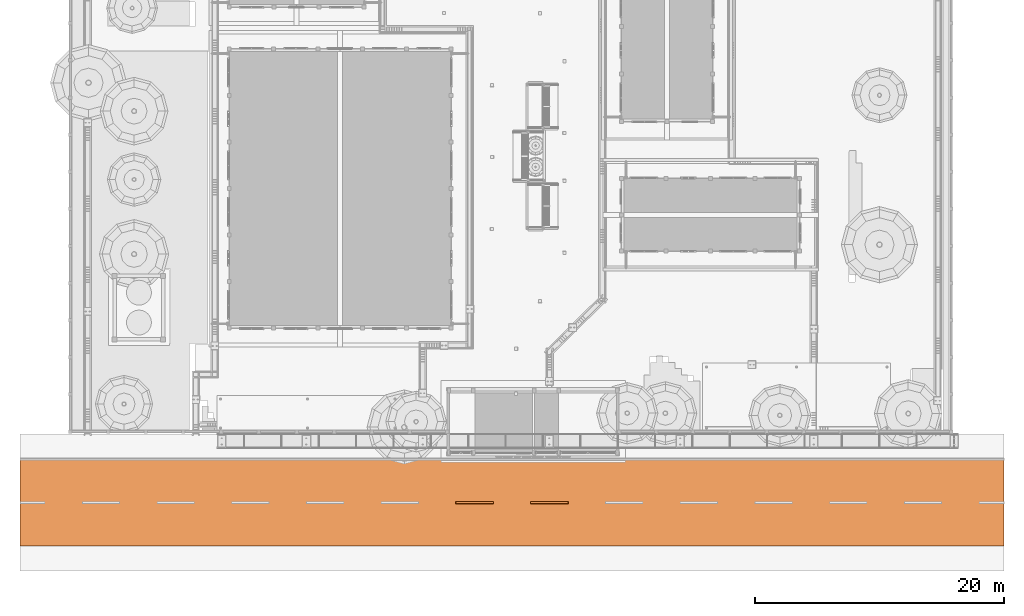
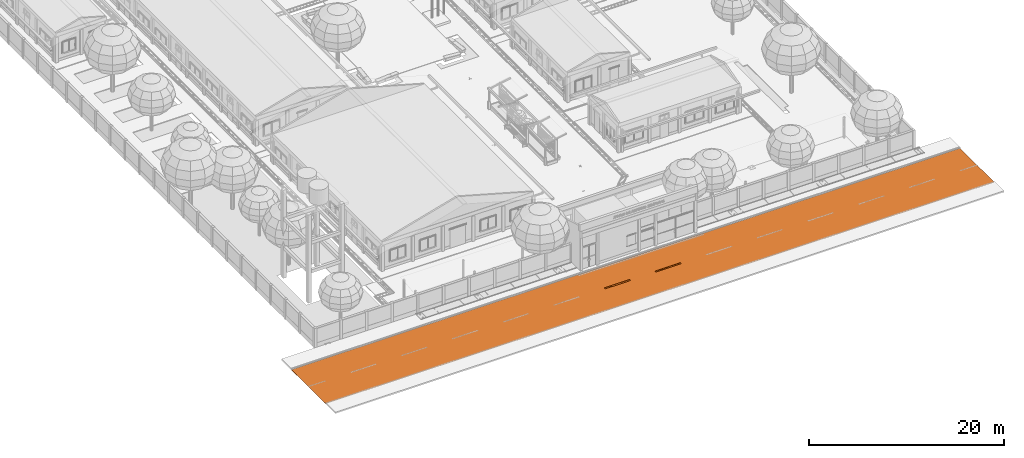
# One storey, part 148 of 166: 3 proxies.
"""IFC2X3 building model written with IfcOpenShell, lengths in metres."""

from ifc_helpers import new_model, si_unit, origin, origin_with_axes, place, context, subcontext, project, spatial, faceted_brep, element, save


model = new_model("IFC2X3")

# Units and contexts
model_context = context("Model", 3, precision=1e-05, world=origin_with_axes())
body_context = subcontext(model_context, "Body", "Model", "MODEL_VIEW")
ifc_project = project(units=[si_unit("LENGTHUNIT", "METRE"), si_unit("AREAUNIT", "SQUARE_METRE"), si_unit("VOLUMEUNIT", "CUBIC_METRE"), si_unit("PLANEANGLEUNIT", "RADIAN")], contexts=[model_context])

# Site, building, storey
site_placement = place(None, origin_with_axes())
site = spatial("IfcSite", under=ifc_project, at=site_placement, Name="Predio Los Mangos - Morales, San Martín", CompositionType="ELEMENT")
building_placement = place(site_placement, origin())
building = spatial("IfcBuilding", under=site, at=building_placement, Name="Hogar de Refugio Temporal", CompositionType="ELEMENT")
storey_placement = place(building_placement, origin())
storey = spatial("IfcBuildingStorey", under=building, at=storey_placement, Name="NIVEL 1 (NPT +0.00)", CompositionType="ELEMENT", Elevation=0.0)

# Proxies
proxy_1_placement = place(storey_placement, origin())
element("IfcBuildingElementProxy", 1, at=proxy_1_placement, inside=storey, Name="pista", ObjectType="Losa deportiva y vía", context=body_context, shape_type="Brep", body=[
    faceted_brep([(-3.0, 8.8, -0.02), (-3.0, 15.8, -0.02), (76.0, 15.8, -0.02), (76.0, 8.8, -0.02), (-3.0, 8.8, 0.02), (76.0, 8.8, 0.02), (76.0, 15.8, 0.02), (-3.0, 15.8, 0.02)], [[[0, 1, 2, 3]], [[4, 5, 6, 7]], [[0, 3, 5, 4]], [[3, 2, 6, 5]], [[2, 1, 7, 6]], [[1, 0, 4, 7]]]),
])
proxy_2_placement = place(storey_placement, origin())
element("IfcBuildingElementProxy", 2, at=proxy_2_placement, inside=storey, Name="linea_carril", ObjectType="Losa deportiva y vía", context=body_context, shape_type="Brep", body=[
    faceted_brep([(32.0, 12.22, 0.02), (32.0, 12.38, 0.02), (35.0, 12.38, 0.02), (35.0, 12.22, 0.02), (32.0, 12.22, 0.025), (35.0, 12.22, 0.025), (35.0, 12.38, 0.025), (32.0, 12.38, 0.025)], [[[0, 1, 2, 3]], [[4, 5, 6, 7]], [[0, 3, 5, 4]], [[3, 2, 6, 5]], [[2, 1, 7, 6]], [[1, 0, 4, 7]]]),
])
proxy_3_placement = place(storey_placement, origin())
element("IfcBuildingElementProxy", 3, at=proxy_3_placement, inside=storey, Name="linea_carril", ObjectType="Losa deportiva y vía", context=body_context, shape_type="Brep", body=[
    faceted_brep([(38.0, 12.22, 0.02), (38.0, 12.38, 0.02), (41.0, 12.38, 0.02), (41.0, 12.22, 0.02), (38.0, 12.22, 0.025), (41.0, 12.22, 0.025), (41.0, 12.38, 0.025), (38.0, 12.38, 0.025)], [[[0, 1, 2, 3]], [[4, 5, 6, 7]], [[0, 3, 5, 4]], [[3, 2, 6, 5]], [[2, 1, 7, 6]], [[1, 0, 4, 7]]]),
])

save(model, "model.ifc")
